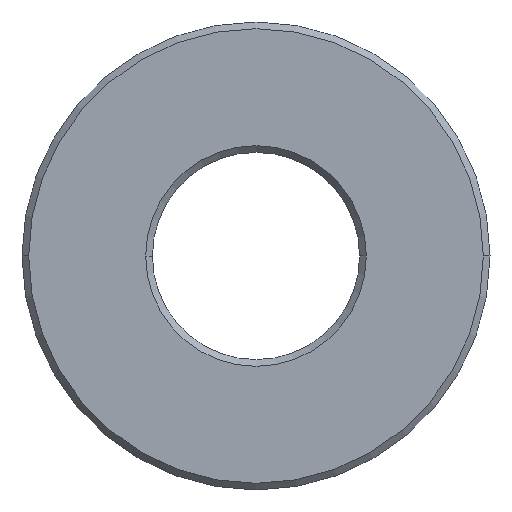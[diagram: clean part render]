
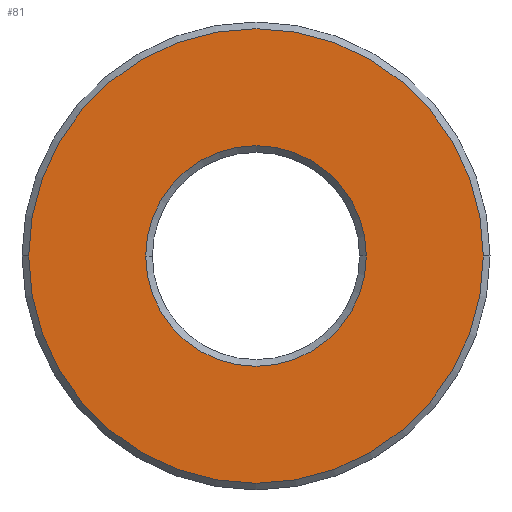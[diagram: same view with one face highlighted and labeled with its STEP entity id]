
A CAD part, left-side view. The second image highlights one B-rep face of the part: STEP entity #81.
In plain terms, the highlighted planar face has unit normal (-1, 0, 0).
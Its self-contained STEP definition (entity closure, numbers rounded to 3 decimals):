
#7 = VERTEX_POINT ( 'NONE', #250 ) ;
#13 = DIRECTION ( 'NONE',  ( 1., 0., 0. ) ) ;
#15 = EDGE_LOOP ( 'NONE', ( #258, #492 ) ) ;
#44 = DIRECTION ( 'NONE',  ( 0., 1., 0. ) ) ;
#58 = CARTESIAN_POINT ( 'NONE',  ( -50.4, 19.05, -30.5 ) ) ;
#62 = AXIS2_PLACEMENT_3D ( 'NONE', #430, #13, #44 ) ;
#65 = PLANE ( 'NONE',  #256 ) ;
#67 = FACE_OUTER_BOUND ( 'NONE', #428, .T. ) ;
#71 = CIRCLE ( 'NONE', #85, 6.8 ) ;
#81 = ADVANCED_FACE ( 'NONE', ( #484, #67 ), #65, .T. ) ;
#85 = AXIS2_PLACEMENT_3D ( 'NONE', #418, #241, #319 ) ;
#128 = CIRCLE ( 'NONE', #62, 3.3 ) ;
#154 = AXIS2_PLACEMENT_3D ( 'NONE', #388, #429, #174 ) ;
#158 = VERTEX_POINT ( 'NONE', #495 ) ;
#166 = AXIS2_PLACEMENT_3D ( 'NONE', #223, #394, #302 ) ;
#174 = DIRECTION ( 'NONE',  ( 0., 1., 0. ) ) ;
#195 = ORIENTED_EDGE ( 'NONE', *, *, #367, .F. ) ;
#221 = DIRECTION ( 'NONE',  ( -1., 0., 0. ) ) ;
#223 = CARTESIAN_POINT ( 'NONE',  ( -50.4, 15.75, -30.5 ) ) ;
#227 = ORIENTED_EDGE ( 'NONE', *, *, #307, .F. ) ;
#236 = DIRECTION ( 'NONE',  ( 0., 0., 1. ) ) ;
#241 = DIRECTION ( 'NONE',  ( 1., 0., 0. ) ) ;
#250 = CARTESIAN_POINT ( 'NONE',  ( -50.4, 8.95, -30.5 ) ) ;
#256 = AXIS2_PLACEMENT_3D ( 'NONE', #364, #221, #236 ) ;
#258 = ORIENTED_EDGE ( 'NONE', *, *, #552, .T. ) ;
#302 = DIRECTION ( 'NONE',  ( 0., 1., 0. ) ) ;
#303 = VERTEX_POINT ( 'NONE', #504 ) ;
#307 = EDGE_CURVE ( 'NONE', #158, #7, #71, .T. ) ;
#319 = DIRECTION ( 'NONE',  ( 0., 1., 0. ) ) ;
#342 = VERTEX_POINT ( 'NONE', #58 ) ;
#364 = CARTESIAN_POINT ( 'NONE',  ( -50.4, 20.8, -30.5 ) ) ;
#367 = EDGE_CURVE ( 'NONE', #7, #158, #402, .T. ) ;
#388 = CARTESIAN_POINT ( 'NONE',  ( -50.4, 15.75, -30.5 ) ) ;
#394 = DIRECTION ( 'NONE',  ( 1., 0., 0. ) ) ;
#400 = CIRCLE ( 'NONE', #154, 3.3 ) ;
#402 = CIRCLE ( 'NONE', #166, 6.8 ) ;
#418 = CARTESIAN_POINT ( 'NONE',  ( -50.4, 15.75, -30.5 ) ) ;
#428 = EDGE_LOOP ( 'NONE', ( #227, #195 ) ) ;
#429 = DIRECTION ( 'NONE',  ( 1., 0., 0. ) ) ;
#430 = CARTESIAN_POINT ( 'NONE',  ( -50.4, 15.75, -30.5 ) ) ;
#446 = EDGE_CURVE ( 'NONE', #303, #342, #128, .T. ) ;
#484 = FACE_BOUND ( 'NONE', #15, .T. ) ;
#492 = ORIENTED_EDGE ( 'NONE', *, *, #446, .T. ) ;
#495 = CARTESIAN_POINT ( 'NONE',  ( -50.4, 22.55, -30.5 ) ) ;
#504 = CARTESIAN_POINT ( 'NONE',  ( -50.4, 12.45, -30.5 ) ) ;
#552 = EDGE_CURVE ( 'NONE', #342, #303, #400, .T. ) ;
